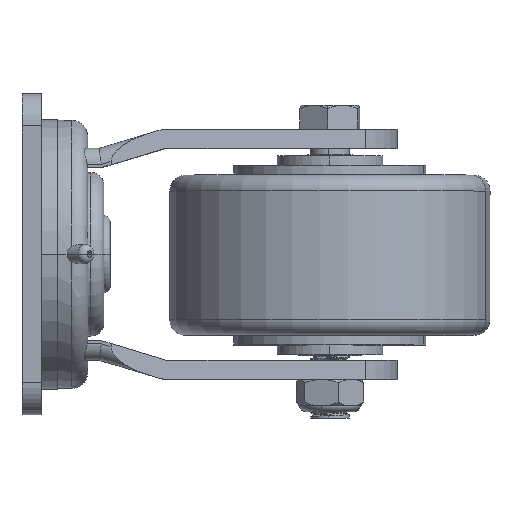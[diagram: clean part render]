
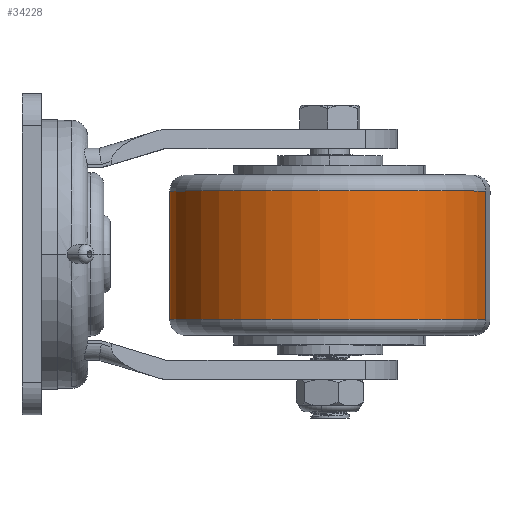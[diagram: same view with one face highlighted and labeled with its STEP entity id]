
A CAD part, left-side view. The second image highlights one B-rep face of the part: STEP entity #34228.
In plain terms, the highlighted cylindrical face has radius 50 mm (diameter 100 mm), a partial arc.
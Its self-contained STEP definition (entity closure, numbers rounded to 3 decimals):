
#183 = CARTESIAN_POINT ( 'NONE',  ( 0., 0., 50. ) ) ;
#1418 = CARTESIAN_POINT ( 'NONE',  ( 0., -20., -50. ) ) ;
#2129 = CIRCLE ( 'NONE', #7114, 50. ) ;
#2259 = DIRECTION ( 'NONE',  ( 0., 0., -1. ) ) ;
#2293 = LINE ( 'NONE', #183, #12908 ) ;
#2473 = AXIS2_PLACEMENT_3D ( 'NONE', #9146, #22721, #32646 ) ;
#3425 = CARTESIAN_POINT ( 'NONE',  ( 0., 20., -50. ) ) ;
#3841 = EDGE_CURVE ( 'NONE', #13128, #28673, #29968, .T. ) ;
#5972 = CARTESIAN_POINT ( 'NONE',  ( 0., 20., 0. ) ) ;
#7114 = AXIS2_PLACEMENT_3D ( 'NONE', #23470, #12341, #2259 ) ;
#8805 = EDGE_CURVE ( 'NONE', #29041, #9649, #2293, .T. ) ;
#9146 = CARTESIAN_POINT ( 'NONE',  ( 0., 0., 0. ) ) ;
#9649 = VERTEX_POINT ( 'NONE', #19569 ) ;
#10335 = ORIENTED_EDGE ( 'NONE', *, *, #8805, .F. ) ;
#10359 = CARTESIAN_POINT ( 'NONE',  ( 0., 20., 50. ) ) ;
#10842 = DIRECTION ( 'NONE',  ( 0., -1., 0. ) ) ;
#11203 = EDGE_CURVE ( 'NONE', #29041, #13128, #29885, .T. ) ;
#11356 = DIRECTION ( 'NONE',  ( 0., 0., 1. ) ) ;
#11425 = FACE_OUTER_BOUND ( 'NONE', #13858, .T. ) ;
#11688 = CARTESIAN_POINT ( 'NONE',  ( 0., 0., -50. ) ) ;
#12114 = CYLINDRICAL_SURFACE ( 'NONE', #2473, 50. ) ;
#12341 = DIRECTION ( 'NONE',  ( 0., 1., 0. ) ) ;
#12908 = VECTOR ( 'NONE', #24358, 1000. ) ;
#13128 = VERTEX_POINT ( 'NONE', #3425 ) ;
#13858 = EDGE_LOOP ( 'NONE', ( #10335, #14163, #25406, #24641 ) ) ;
#14163 = ORIENTED_EDGE ( 'NONE', *, *, #11203, .T. ) ;
#16987 = EDGE_CURVE ( 'NONE', #28673, #9649, #2129, .T. ) ;
#19569 = CARTESIAN_POINT ( 'NONE',  ( 0., -20., 50. ) ) ;
#19859 = AXIS2_PLACEMENT_3D ( 'NONE', #5972, #10842, #11356 ) ;
#22721 = DIRECTION ( 'NONE',  ( 0., -1., 0. ) ) ;
#23470 = CARTESIAN_POINT ( 'NONE',  ( 0., -20., 0. ) ) ;
#24358 = DIRECTION ( 'NONE',  ( 0., -1., 0. ) ) ;
#24641 = ORIENTED_EDGE ( 'NONE', *, *, #16987, .T. ) ;
#25406 = ORIENTED_EDGE ( 'NONE', *, *, #3841, .T. ) ;
#26375 = VECTOR ( 'NONE', #30133, 1000. ) ;
#28673 = VERTEX_POINT ( 'NONE', #1418 ) ;
#29041 = VERTEX_POINT ( 'NONE', #10359 ) ;
#29885 = CIRCLE ( 'NONE', #19859, 50. ) ;
#29968 = LINE ( 'NONE', #11688, #26375 ) ;
#30133 = DIRECTION ( 'NONE',  ( 0., -1., 0. ) ) ;
#32646 = DIRECTION ( 'NONE',  ( 0., 0., -1. ) ) ;
#34228 = ADVANCED_FACE ( 'NONE', ( #11425 ), #12114, .T. ) ;
